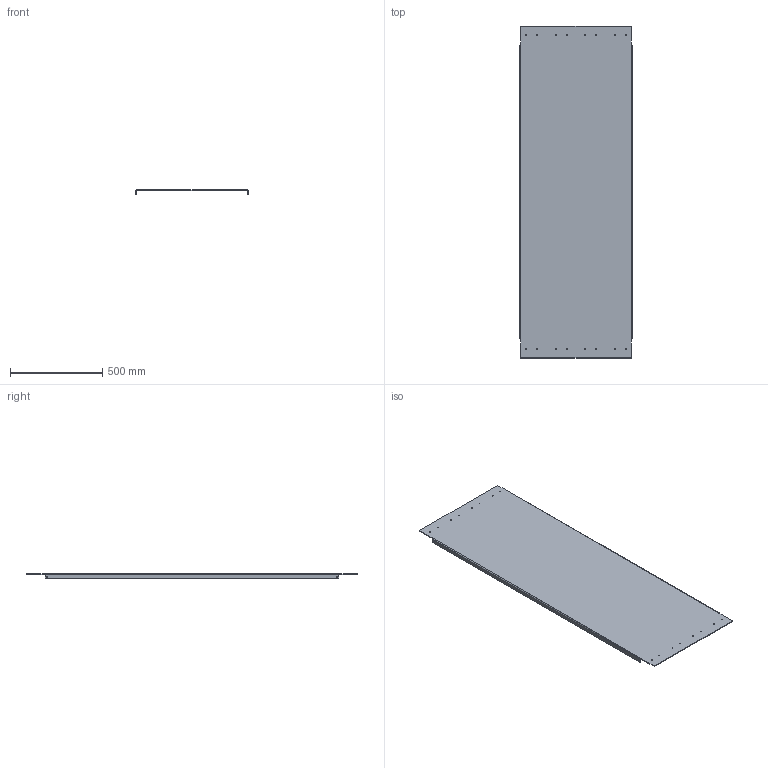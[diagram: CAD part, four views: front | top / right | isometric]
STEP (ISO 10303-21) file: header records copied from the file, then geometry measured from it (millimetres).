
FILE_DESCRIPTION(('HOOPS Exchange Step'),'2;1');
FILE_NAME('/private/var/mobile/Containers/Data/Application/E4481369-A8C6-45C6-A958-B1853E49479D/tmp/export/temp_export','2021-04-12T21:17:13+00:00',('mobile'),('Shapr3D Limited'),'HOOPS Exchange 2020.2','Shapr3D','Authorized');
FILE_SCHEMA( ('AP203_CONFIGURATION_CONTROLLED_3D_DESIGN_OF_MECHANICAL_PARTS_AND_ASSEMBLIES_MIM_LF') );
Length unit declared in the file: millimetre
Products named in the file (2): 0; /private/var/mobile/Containers/Data/Application/E4481369-A8C6-45C6-A958-B1853E49479D/tmp/08D91145-7163-44FA-BCF4-209CA0A40728.tmp
Assembly tree (1 placements, depth 2):
  /private/var/mobile/Containers/Data/Application/E4481369-A8C6-45C6-A958-B1853E49479D/tmp/08D91145-7163-44FA-BCF4-209CA0A40728.tmp
    0
Bounding box: 610 x 1800 x 24 mm (x, y, z)
Volume: 4620295.1 mm3; surface area: 2331020.1 mm2
Topology: 1 solids, 1 shells, 50 faces, 160 edges, 112 vertices
Faces by surface type: cylinder 32, plane 18
Full cylindrical faces by diameter (mm): 5.2 x20
Entity records: 1967 total; most frequent: DIRECTION 354, CARTESIAN_POINT 325, ORIENTED_EDGE 320, EDGE_CURVE 160, AXIS2_PLACEMENT_3D 141, VERTEX_POINT 112, EDGE_LOOP 90, FACE_BOUND 90
